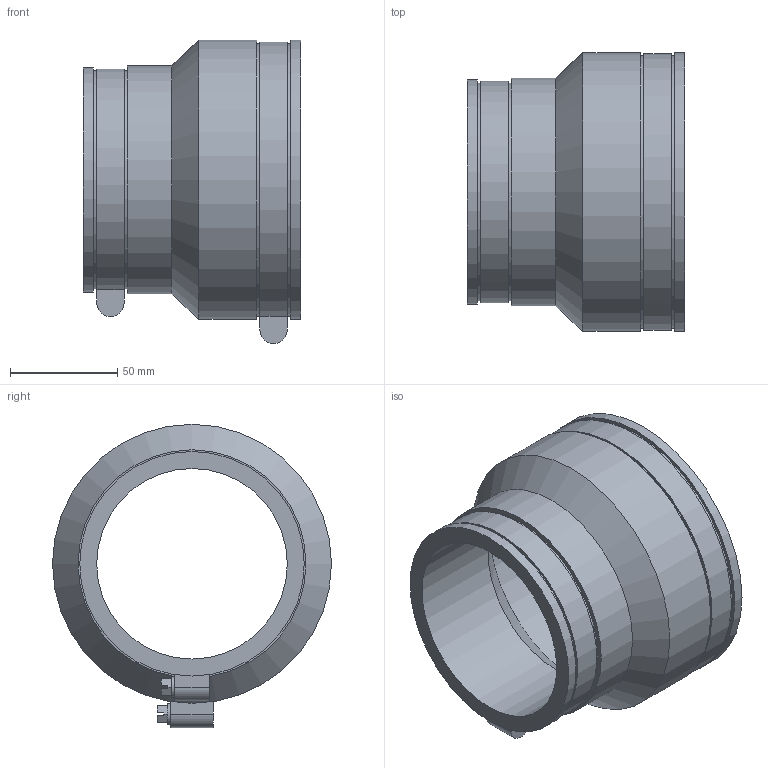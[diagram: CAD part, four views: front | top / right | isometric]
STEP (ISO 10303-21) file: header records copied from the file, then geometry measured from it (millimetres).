
FILE_DESCRIPTION(/* description */ ('Alibre Inc.'),/* implementation_level */ '2;1');
FILE_NAME(/* name */ 'export0',/* time_stamp */ '2010-12-06T11:00:02-05:00',/* author */ (''),/* organization */ (''),/* preprocessor_version */ 'ST-DEVELOPER v10',/* originating_system */ 'Alibre',/* authorisation */ '');
FILE_SCHEMA (('AUTOMOTIVE_DESIGN'));
Length unit declared in the file: centimetre
Bounding box: 101.6 x 130.15 x 141.53 mm (x, y, z)
Volume: 294954.3 mm3; surface area: 102927.3 mm2
Topology: 3 solids, 3 shells, 58 faces, 128 edges, 84 vertices
Faces by surface type: plane 40, cylinder 16, cone 2
Full cylindrical faces by diameter (mm): 9.525 x2, 88.9 x1, 101.702 x1, 104.75 x1, 106.363 x1, 114.3 x1, 127.102 x1, 130.15 x2
Entity records: 1595 total; most frequent: CARTESIAN_POINT 262, DIRECTION 234, ORIENTED_EDGE 232, EDGE_CURVE 116, AXIS2_PLACEMENT_3D 94, VECTOR 84, LINE 84, VERTEX_POINT 84
